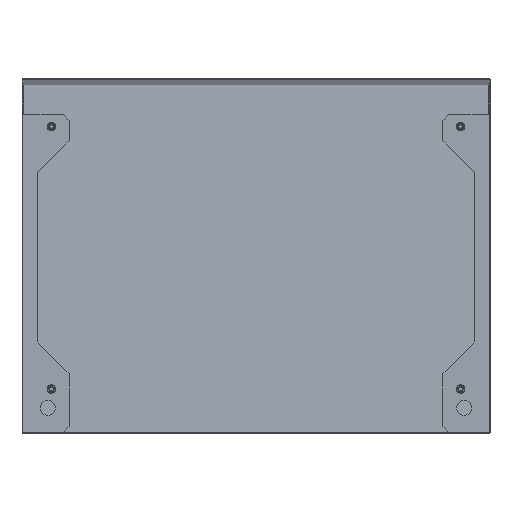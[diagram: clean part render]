
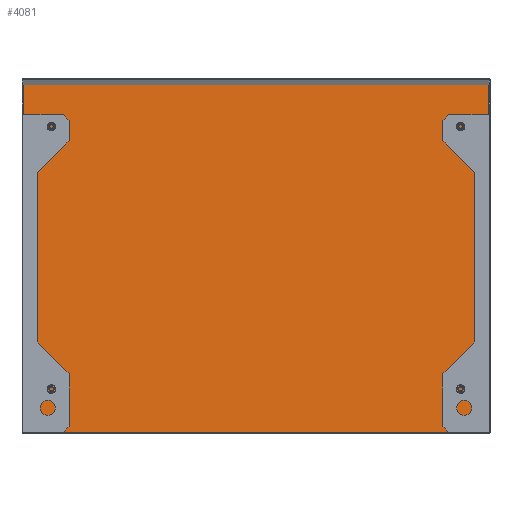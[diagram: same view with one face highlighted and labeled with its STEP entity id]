
A CAD part, front view. The second image highlights one B-rep face of the part: STEP entity #4081.
In plain terms, the highlighted planar face has unit normal (0, -0.999, 0.054).
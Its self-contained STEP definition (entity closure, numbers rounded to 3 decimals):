
#523 = FACE_OUTER_BOUND ( 'NONE', #2997, .T. ) ;
#553 = AXIS2_PLACEMENT_3D ( 'NONE', #1422, #1423, #1424 ) ;
#614 = VECTOR ( 'NONE', #1267, 1000. ) ;
#617 = VECTOR ( 'NONE', #1264, 1000. ) ;
#619 = VECTOR ( 'NONE', #1261, 1000. ) ;
#620 = VECTOR ( 'NONE', #1258, 1000. ) ;
#1256 = LINE ( 'NONE', #1257, #620 ) ;
#1257 = CARTESIAN_POINT ( 'NONE',  ( -810., 24.905, 1.967 ) ) ;
#1258 = DIRECTION ( 'NONE',  ( -1., 0., 0. ) ) ;
#1259 = LINE ( 'NONE', #1260, #619 ) ;
#1260 = CARTESIAN_POINT ( 'NONE',  ( -808., 57.67, 604.541 ) ) ;
#1261 = DIRECTION ( 'NONE',  ( 0., 0.054, 0.999 ) ) ;
#1262 = LINE ( 'NONE', #1263, #617 ) ;
#1263 = CARTESIAN_POINT ( 'NONE',  ( -2., 57.67, 604.541 ) ) ;
#1264 = DIRECTION ( 'NONE',  ( 0., -0.054, -0.999 ) ) ;
#1265 = LINE ( 'NONE', #1266, #614 ) ;
#1266 = CARTESIAN_POINT ( 'NONE',  ( -810., 57.574, 602.774 ) ) ;
#1267 = DIRECTION ( 'NONE',  ( 1., 0., 0. ) ) ;
#1421 = PLANE ( 'NONE',  #553 ) ;
#1422 = CARTESIAN_POINT ( 'NONE',  ( -810., 57.67, 604.541 ) ) ;
#1423 = DIRECTION ( 'NONE',  ( 0., 0.999, -0.054 ) ) ;
#1424 = DIRECTION ( 'NONE',  ( 0., 0.054, 0.999 ) ) ;
#2167 = VERTEX_POINT ( 'NONE', #3957 ) ;
#2168 = VERTEX_POINT ( 'NONE', #3958 ) ;
#2169 = VERTEX_POINT ( 'NONE', #3959 ) ;
#2170 = VERTEX_POINT ( 'NONE', #3960 ) ;
#2997 = EDGE_LOOP ( 'NONE', ( #3198, #3200, #3199, #3201 ) ) ;
#3198 = ORIENTED_EDGE ( 'NONE', *, *, #4027, .F. ) ;
#3199 = ORIENTED_EDGE ( 'NONE', *, *, #4028, .F. ) ;
#3200 = ORIENTED_EDGE ( 'NONE', *, *, #4026, .F. ) ;
#3201 = ORIENTED_EDGE ( 'NONE', *, *, #4029, .F. ) ;
#3957 = CARTESIAN_POINT ( 'NONE',  ( -2., 57.574, 602.774 ) ) ;
#3958 = CARTESIAN_POINT ( 'NONE',  ( -2., 24.905, 1.967 ) ) ;
#3959 = CARTESIAN_POINT ( 'NONE',  ( -808., 57.574, 602.774 ) ) ;
#3960 = CARTESIAN_POINT ( 'NONE',  ( -808., 24.905, 1.967 ) ) ;
#4026 = EDGE_CURVE ( 'NONE', #2168, #2170, #1256, .T. ) ;
#4027 = EDGE_CURVE ( 'NONE', #2170, #2169, #1259, .T. ) ;
#4028 = EDGE_CURVE ( 'NONE', #2167, #2168, #1262, .T. ) ;
#4029 = EDGE_CURVE ( 'NONE', #2169, #2167, #1265, .T. ) ;
#4081 = ADVANCED_FACE ( 'NONE', ( #523 ), #1421, .F. ) ;
